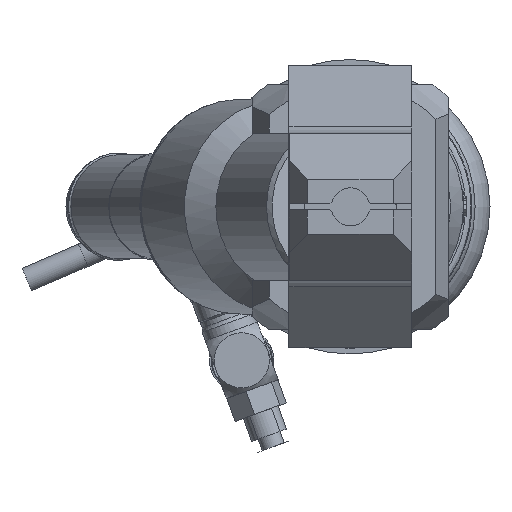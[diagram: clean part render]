
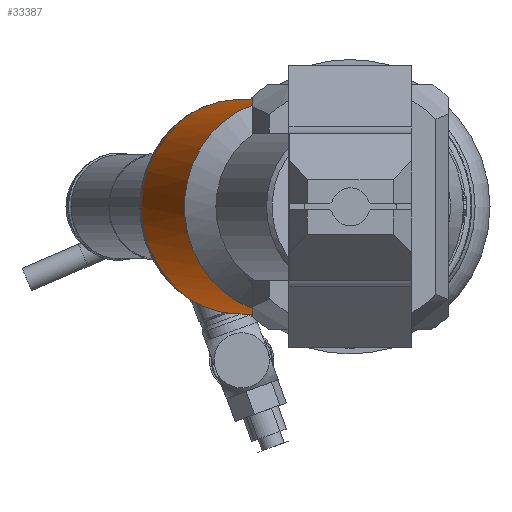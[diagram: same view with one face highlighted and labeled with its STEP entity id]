
A CAD part, left-side view. The second image highlights one B-rep face of the part: STEP entity #33387.
In plain terms, the highlighted cylindrical face has radius 17.5 mm (diameter 35 mm), a partial arc.
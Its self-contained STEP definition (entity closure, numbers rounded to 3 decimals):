
#359=ELLIPSE('',#33834,46.716,17.5);
#360=ELLIPSE('',#33835,46.716,17.5);
#398=ELLIPSE('',#35945,46.716,17.5);
#404=ELLIPSE('',#35987,46.716,17.5);
#3374=FACE_OUTER_BOUND('',#5296,.T.);
#5296=EDGE_LOOP('',(#29066,#29067,#29068,#29069,#29070,#29071,#29072,#29073));
#5553=B_SPLINE_CURVE_WITH_KNOTS('',3,(#44982,#44983,#44984,#44985),
 .UNSPECIFIED.,.F.,.F.,(4,4),(4.522,4.522),
 .UNSPECIFIED.);
#5554=B_SPLINE_CURVE_WITH_KNOTS('',3,(#44989,#44990,#44991,#44992),
 .UNSPECIFIED.,.F.,.F.,(4,4),(0.786,0.786),
 .UNSPECIFIED.);
#7558=CIRCLE('',#35938,17.5);
#7576=CIRCLE('',#35988,17.5);
#12678=VERTEX_POINT('',#44980);
#12679=VERTEX_POINT('',#44981);
#12680=VERTEX_POINT('',#44986);
#12681=VERTEX_POINT('',#44988);
#12698=VERTEX_POINT('',#45043);
#12699=VERTEX_POINT('',#45048);
#15346=VERTEX_POINT('',#132166);
#15349=VERTEX_POINT('',#132181);
#15980=EDGE_CURVE('',#12678,#12679,#5553,.T.);
#15982=EDGE_CURVE('',#12680,#12681,#5554,.T.);
#16008=EDGE_CURVE('',#12698,#12680,#359,.T.);
#16009=EDGE_CURVE('',#12679,#12699,#360,.T.);
#19969=EDGE_CURVE('',#12698,#15346,#7558,.T.);
#19976=EDGE_CURVE('',#15346,#15349,#398,.T.);
#20026=EDGE_CURVE('',#12678,#12681,#404,.T.);
#20027=EDGE_CURVE('',#12699,#15349,#7576,.T.);
#29066=ORIENTED_EDGE('',*,*,#16009,.F.);
#29067=ORIENTED_EDGE('',*,*,#15980,.F.);
#29068=ORIENTED_EDGE('',*,*,#20026,.T.);
#29069=ORIENTED_EDGE('',*,*,#15982,.F.);
#29070=ORIENTED_EDGE('',*,*,#16008,.F.);
#29071=ORIENTED_EDGE('',*,*,#19969,.T.);
#29072=ORIENTED_EDGE('',*,*,#19976,.T.);
#29073=ORIENTED_EDGE('',*,*,#20027,.F.);
#30558=CYLINDRICAL_SURFACE('',#35986,17.5);
#33387=ADVANCED_FACE('',(#3374),#30558,.T.);
#33834=AXIS2_PLACEMENT_3D('',#45047,#36925,#36926);
#33835=AXIS2_PLACEMENT_3D('',#45049,#36927,#36928);
#35938=AXIS2_PLACEMENT_3D('',#132170,#43095,#43096);
#35945=AXIS2_PLACEMENT_3D('',#132191,#43111,#43112);
#35986=AXIS2_PLACEMENT_3D('',#132338,#43214,#43215);
#35987=AXIS2_PLACEMENT_3D('',#132339,#43216,#43217);
#35988=AXIS2_PLACEMENT_3D('',#132340,#43218,#43219);
#36925=DIRECTION('center_axis',(0.001,-1.,
0.));
#36926=DIRECTION('ref_axis',(1.,0.001,0.));
#36927=DIRECTION('center_axis',(0.001,-1.,
0.));
#36928=DIRECTION('ref_axis',(1.,0.001,0.));
#43095=DIRECTION('center_axis',(0.927,0.375,0.));
#43096=DIRECTION('ref_axis',(0.,0.,
-1.));
#43111=DIRECTION('center_axis',(-0.001,1.,
0.));
#43112=DIRECTION('ref_axis',(-1.,-0.001,0.));
#43214=DIRECTION('center_axis',(0.927,0.375,0.));
#43215=DIRECTION('ref_axis',(-0.375,0.927,0.));
#43216=DIRECTION('center_axis',(-0.001,1.,
0.));
#43217=DIRECTION('ref_axis',(-1.,-0.001,0.));
#43218=DIRECTION('center_axis',(0.927,0.375,0.));
#43219=DIRECTION('ref_axis',(-0.375,0.927,0.));
#44980=CARTESIAN_POINT('',(-368.255,15.885,-16.953));
#44981=CARTESIAN_POINT('',(-368.255,15.885,-16.953));
#44982=CARTESIAN_POINT('Ctrl Pts',(-368.255,15.885,-16.953));
#44983=CARTESIAN_POINT('Ctrl Pts',(-368.255,15.885,-16.953));
#44984=CARTESIAN_POINT('Ctrl Pts',(-368.255,15.885,-16.953));
#44985=CARTESIAN_POINT('Ctrl Pts',(-368.255,15.885,-16.953));
#44986=CARTESIAN_POINT('',(-371.429,15.883,-16.603));
#44988=CARTESIAN_POINT('',(-371.429,15.883,-16.603));
#44989=CARTESIAN_POINT('Ctrl Pts',(-371.429,15.883,-16.603));
#44990=CARTESIAN_POINT('Ctrl Pts',(-371.429,15.883,-16.603));
#44991=CARTESIAN_POINT('Ctrl Pts',(-371.429,15.883,-16.603));
#44992=CARTESIAN_POINT('Ctrl Pts',(-371.429,15.883,-16.603));
#45043=CARTESIAN_POINT('',(-371.649,15.883,-16.576));
#45047=CARTESIAN_POINT('Origin',(-356.668,15.891,0.));
#45048=CARTESIAN_POINT('',(-351.084,15.894,-17.375));
#45049=CARTESIAN_POINT('Origin',(-356.668,15.891,0.));
#132166=CARTESIAN_POINT('',(-371.649,15.883,16.576));
#132170=CARTESIAN_POINT('Origin',(-369.544,10.681,0.));
#132181=CARTESIAN_POINT('',(-351.084,15.893,17.375));
#132191=CARTESIAN_POINT('Origin',(-356.668,15.891,0.));
#132338=CARTESIAN_POINT('Origin',(-360.274,14.432,0.));
#132339=CARTESIAN_POINT('Origin',(-356.668,15.891,0.));
#132340=CARTESIAN_POINT('Origin',(-351.869,17.833,0.));
